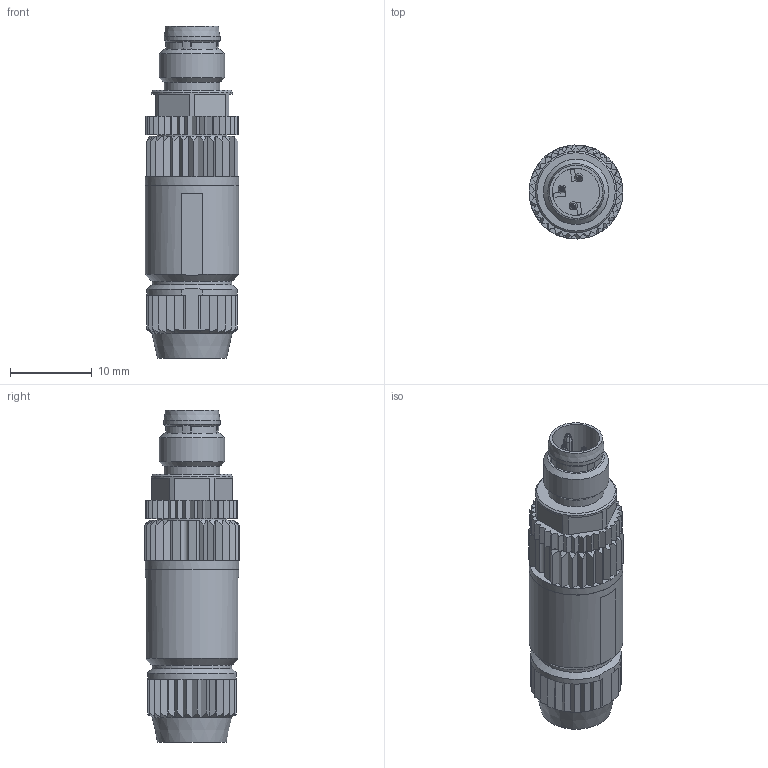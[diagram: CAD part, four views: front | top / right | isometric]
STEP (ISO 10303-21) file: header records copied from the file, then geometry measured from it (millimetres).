
FILE_DESCRIPTION(/* description */ (''),/* implementation_level */ '2;1');
FILE_NAME(/* name */ '100188429ugm000_d.stp',/* time_stamp */ '2022-08-12T08:34:47+02:00',/* author */ (''),/* organization */ (''),/* preprocessor_version */ 'ST-DEVELOPER v16.7',/* originating_system */ 'SIEMENS PLM Software NX 1911',/* authorisation */ '');
FILE_SCHEMA (('AUTOMOTIVE_DESIGN { 1 0 10303 214 3 1 1 1 }'));
Length unit declared in the file: millimetre
Products named in the file (1): 100188429ugm000_d
Bounding box: 11.51 x 11.59 x 40.7 mm (x, y, z)
Volume: 2942.6 mm3; surface area: 4255.7 mm2
Topology: 4 solids, 4 shells, 761 faces, 2022 edges, 1301 vertices
Faces by surface type: plane 523, cylinder 121, bspline 57, cone 47, extrusion 6, torus 5, sphere 2
Full cylindrical faces by diameter (mm): 3.2 x1, 5.2 x1, 5.6 x1, 5.8 x1, 6.85 x1, 6.87 x1, 7.5 x1, 8 x1, 8.6 x1, 8.7 x3, 8.75 x1, 9.5 x1, 9.8 x1, 10 x2, 11.5 x1, 11.51 x1
Entity records: 28055 total; most frequent: CARTESIAN_POINT 6550, ORIENTED_EDGE 3938, DIRECTION 3496, EDGE_CURVE 1969, VERTEX_POINT 1286, VECTOR 1236, LINE 1230, AXIS2_PLACEMENT_3D 1130
